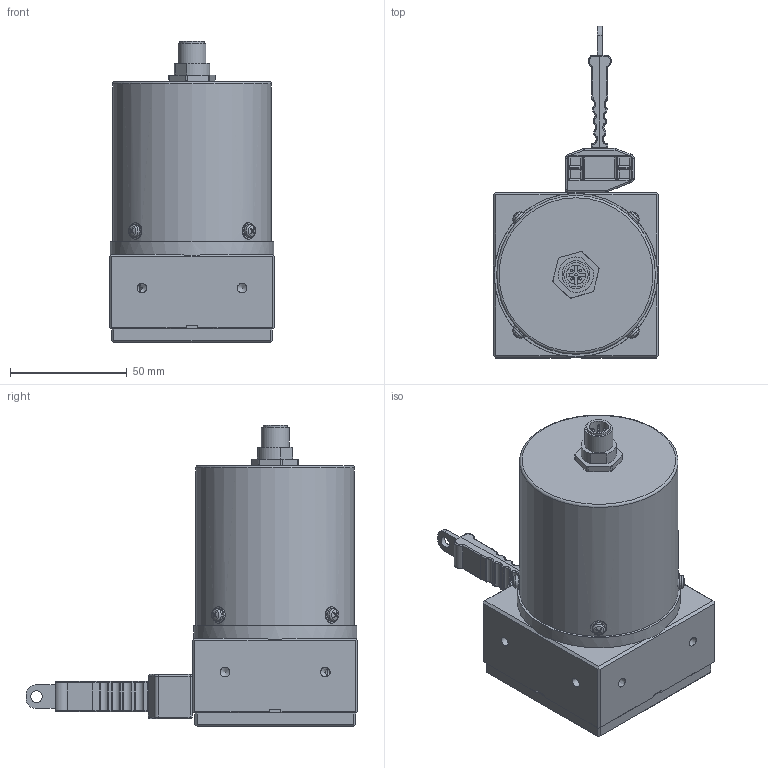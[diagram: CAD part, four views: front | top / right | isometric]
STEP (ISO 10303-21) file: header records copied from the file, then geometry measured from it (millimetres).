
FILE_DESCRIPTION((''),'2;1');
FILE_NAME('K:\Daten\wb12-1000.stp','2013-08-23T14:27:39',('kamp'),(''),'Autodesk Inventor 2008','Autodesk Inventor 2008','');
FILE_SCHEMA(('AUTOMOTIVE_DESIGN { 1 0 10303 214 1 1 1 1 }'));
Length unit declared in the file: millimetre
Products named in the file (1): Bauteil5
Bounding box: 71 x 142.3 x 129.4 mm (x, y, z)
Volume: 473374 mm3; surface area: 42782.1 mm2
Topology: 1 solids, 1 shells, 624 faces, 1506 edges, 902 vertices
Faces by surface type: plane 309, cylinder 134, bspline 123, sphere 43, torus 11, cone 4
Full cylindrical faces by diameter (mm): 1 x5, 7 x7, 8.3 x1, 10.4 x1, 12 x1, 68 x1, 70 x1
Entity records: 21109 total; most frequent: CARTESIAN_POINT 6882, ORIENTED_EDGE 2844, DIRECTION 2814, EDGE_CURVE 1422, AXIS2_PLACEMENT_3D 995, VERTEX_POINT 885, VECTOR 824, LINE 824
